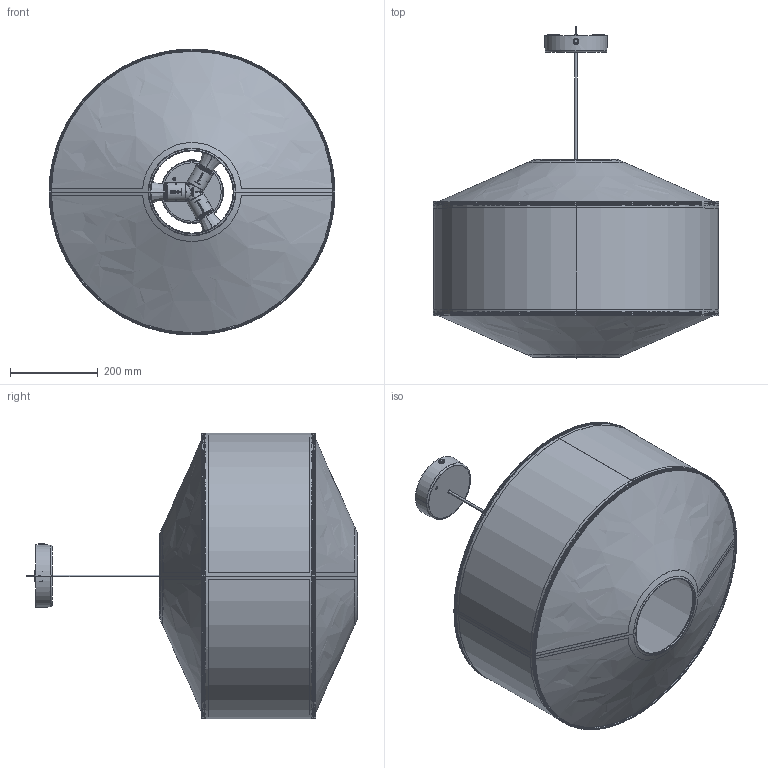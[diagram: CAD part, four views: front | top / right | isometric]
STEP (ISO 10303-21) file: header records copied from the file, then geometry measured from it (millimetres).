
FILE_DESCRIPTION(/* description */ (''),/* implementation_level */ '2;1');
FILE_NAME(/* name */ 'Kite Pendant Ø65 for web',/* time_stamp */ '2024-07-17T14:12:22+02:00',/* author */ (''),/* organization */ (''),/* preprocessor_version */ 'ST-DEVELOPER v19.2',/* originating_system */ 'Rhino 8.7',/* authorisation */ '');
FILE_SCHEMA (('CONFIG_CONTROL_DESIGN'));
Length unit declared in the file: millimetre
Products named in the file (31): Document; M4X5PM; TOOTH_WASHER_M4; RUBBER_PLUG; M6_SET_SCREW; GROUND_WIRE-M5-M4; KITE_CANOPY; KITE-MOUNTING; SHADE-650_ASM; SHADE-650-CENTER-RING_ASM; SHADE-650-CENTER-RING; CIRCLE-O649-D4; SHADE-650-TOP_ASM; SHADE-650-TOP; Block 01; CIRCLE-O205-D5; LAMP-HOLDER_ASM; LED_BULB_E27_ASM; IMPORTED3; IMPORTED2; IMPORTED4; IMPORTED1; E27-LAMPHOLDER-PLASTIC; LAMP-HOLDER-TOP; LAMP-HOLDER-BOTTOM; SCREW-PA3X10; HOLE-CAP; 301-CLIP; KITE650-TUBE; KITE-CRADLE-DIE-CAST; CABLE-O55
Bounding box: 650 x 754.6 x 650 mm (x, y, z)
Volume: 513360.5 mm3; surface area: 3164665.9 mm2
Topology: 48 solids, 73 shells, 4410 faces, 11871 edges, 7718 vertices
Faces by surface type: plane 2971, cylinder 796, bspline 643
Entity records: 150106 total; most frequent: CARTESIAN_POINT 73541, ORIENTED_EDGE 20040, EDGE_CURVE 10056, B_SPLINE_CURVE_WITH_KNOTS 8895, VERTEX_POINT 6575, DIRECTION 5844, AXIS2_PLACEMENT_3D 4590, EDGE_LOOP 3991
